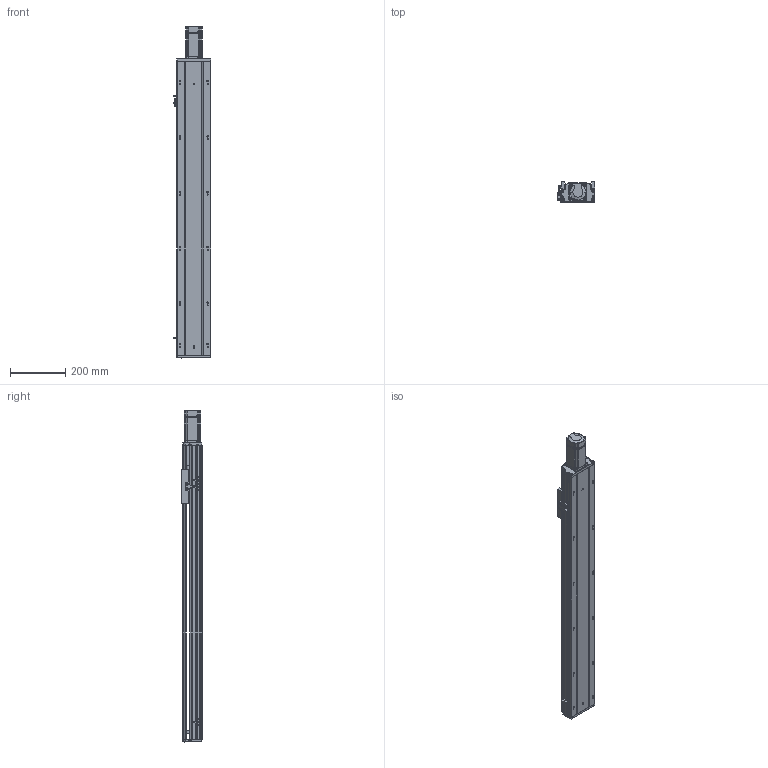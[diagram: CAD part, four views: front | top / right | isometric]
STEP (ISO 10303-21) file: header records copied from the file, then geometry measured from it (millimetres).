
FILE_DESCRIPTION (( 'STEP AP203' ), '1' );
FILE_NAME ('RY120Q-L1610-500-MK.SLDASM_0800.step', '2021-05-19T01:45:18', ( '盈信电脑' ), ( '东莞市道滘镇水果街19号' ), 'SwSTEP 2.0', 'SolidWorks 2016', '' );
FILE_SCHEMA (( 'CONFIG_CONTROL_DESIGN' ));
Length unit declared in the file: millimetre
Products named in the file (14): 15; 鞠褒坶踡蹟譫BK12 ; RY120铝滑块16丝杆（FK12）; RY120綴裔啣; RY120-500-MK倰第菁釱_0800; RY120外置感应片(140共用）; 覜茼ん672; 侂狟400W侜督萇儂; 滅袉蝶18-15; RY120QGB-1.8; RY120-500-MK倰第奻裔啣_0800; 滅袉蝶18-10; RY120Q-L1610-500-MK.SLDASM_0800; RY120萇儂釱FK12
Assembly tree (16 placements, depth 3):
  RY120Q-L1610-500-MK.SLDASM_0800
    RY120-500-MK倰第菁釱_0800
    RY120-500-MK倰第奻裔啣_0800
    侂狟400W侜督萇儂
      15
    鞠褒坶踡蹟譫BK12 
    RY120綴裔啣
    覜茼ん672  x3
    滅袉蝶18-10
    滅袉蝶18-15  x2
    RY120外置感应片(140共用）
    RY120QGB-1.8
    RY120铝滑块16丝杆（FK12）
    RY120萇儂釱FK12
Bounding box: 135.7 x 74 x 1198.5 mm (x, y, z)
Volume: 3187820.4 mm3; surface area: 1118077.9 mm2
Topology: 16 solids, 16 shells, 2248 faces, 6171 edges, 3932 vertices
Faces by surface type: plane 1019, cylinder 879, cone 249, bspline 101
Entity records: 73909 total; most frequent: CARTESIAN_POINT 20671, ORIENTED_EDGE 11054, DIRECTION 10427, EDGE_CURVE 5527, VERTEX_POINT 3600, AXIS2_PLACEMENT_3D 3600, LINE 3227, VECTOR 3227
